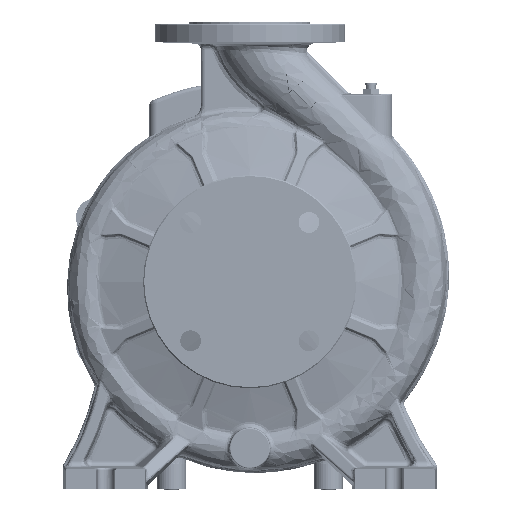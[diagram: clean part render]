
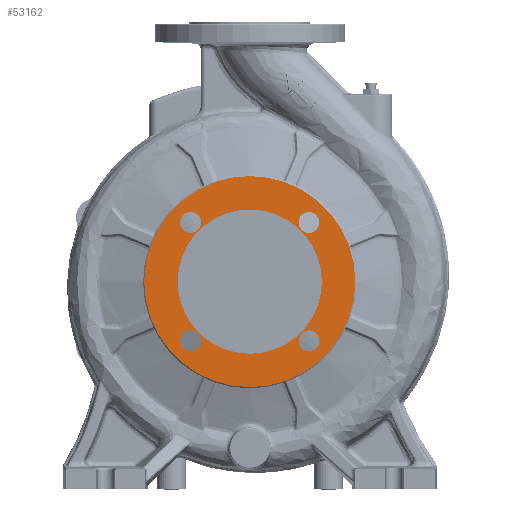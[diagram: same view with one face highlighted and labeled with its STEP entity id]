
A CAD part, left-side view. The second image highlights one B-rep face of the part: STEP entity #53162.
In plain terms, the highlighted planar face has unit normal (-1, 0, 0).
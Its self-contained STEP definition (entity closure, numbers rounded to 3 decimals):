
#1034 = CIRCLE ( 'NONE', #49460, 91.5 ) ;
#2790 = DIRECTION ( 'NONE',  ( 0., 1., 0. ) ) ;
#3164 = AXIS2_PLACEMENT_3D ( 'NONE', #77000, #22622, #75261 ) ;
#7348 = AXIS2_PLACEMENT_3D ( 'NONE', #144102, #24612, #79869 ) ;
#8888 = CARTESIAN_POINT ( 'NONE',  ( -229.5, 57.629, -57.629 ) ) ;
#9123 = FACE_BOUND ( 'NONE', #127424, .T. ) ;
#9457 = EDGE_CURVE ( 'NONE', #87311, #141584, #174611, .T. ) ;
#11344 = CARTESIAN_POINT ( 'NONE',  ( -229.5, -51.265, -51.265 ) ) ;
#13207 = ORIENTED_EDGE ( 'NONE', *, *, #113485, .T. ) ;
#13282 = CIRCLE ( 'NONE', #93066, 91.5 ) ;
#14411 = CIRCLE ( 'NONE', #42943, 9. ) ;
#20060 = EDGE_CURVE ( 'NONE', #94092, #72420, #80522, .T. ) ;
#22622 = DIRECTION ( 'NONE',  ( 1., 0., 0. ) ) ;
#23498 = CARTESIAN_POINT ( 'NONE',  ( -229.5, 51.265, -51.265 ) ) ;
#24612 = DIRECTION ( 'NONE',  ( 1., 0., 0. ) ) ;
#24714 = DIRECTION ( 'NONE',  ( -1., 0., 0. ) ) ;
#26055 = ORIENTED_EDGE ( 'NONE', *, *, #133220, .T. ) ;
#27043 = ORIENTED_EDGE ( 'NONE', *, *, #55331, .T. ) ;
#28665 = CARTESIAN_POINT ( 'NONE',  ( -229.5, -51.265, 51.265 ) ) ;
#31810 = CARTESIAN_POINT ( 'NONE',  ( -229.5, 62.5, 0. ) ) ;
#32246 = EDGE_LOOP ( 'NONE', ( #32317, #172771 ) ) ;
#32317 = ORIENTED_EDGE ( 'NONE', *, *, #41038, .T. ) ;
#32535 = CARTESIAN_POINT ( 'NONE',  ( -229.5, -57.629, -57.629 ) ) ;
#33638 = AXIS2_PLACEMENT_3D ( 'NONE', #66405, #105631, #149228 ) ;
#33712 = CIRCLE ( 'NONE', #144638, 9. ) ;
#34184 = VERTEX_POINT ( 'NONE', #136794 ) ;
#34701 = CIRCLE ( 'NONE', #134295, 62.5 ) ;
#37080 = EDGE_CURVE ( 'NONE', #127631, #109722, #14411, .T. ) ;
#37238 = CARTESIAN_POINT ( 'NONE',  ( -229.5, 57.629, 57.629 ) ) ;
#37442 = EDGE_CURVE ( 'NONE', #138045, #85432, #79952, .T. ) ;
#38120 = DIRECTION ( 'NONE',  ( -1., 0., 0. ) ) ;
#39187 = DIRECTION ( 'NONE',  ( 0., 1., 0. ) ) ;
#40177 = CARTESIAN_POINT ( 'NONE',  ( -229.5, -44.901, 44.901 ) ) ;
#40763 = DIRECTION ( 'NONE',  ( 0., 1., 0. ) ) ;
#40927 = AXIS2_PLACEMENT_3D ( 'NONE', #94066, #148418, #100223 ) ;
#41038 = EDGE_CURVE ( 'NONE', #172955, #143105, #13282, .T. ) ;
#42195 = CIRCLE ( 'NONE', #170302, 9. ) ;
#42943 = AXIS2_PLACEMENT_3D ( 'NONE', #81062, #65961, #39187 ) ;
#45769 = FACE_BOUND ( 'NONE', #48222, .T. ) ;
#48222 = EDGE_LOOP ( 'NONE', ( #26055, #103504 ) ) ;
#48906 = DIRECTION ( 'NONE',  ( 0., 1., 0. ) ) ;
#49460 = AXIS2_PLACEMENT_3D ( 'NONE', #69257, #38120, #40763 ) ;
#53162 = ADVANCED_FACE ( 'NONE', ( #156210, #86756, #45769, #170458, #9123, #73365 ), #157964, .T. ) ;
#54427 = ORIENTED_EDGE ( 'NONE', *, *, #83383, .F. ) ;
#55331 = EDGE_CURVE ( 'NONE', #141584, #87311, #42195, .T. ) ;
#56484 = EDGE_LOOP ( 'NONE', ( #130764, #13207 ) ) ;
#64982 = AXIS2_PLACEMENT_3D ( 'NONE', #169596, #88506, #102739 ) ;
#65749 = DIRECTION ( 'NONE',  ( 0., 1., 0. ) ) ;
#65961 = DIRECTION ( 'NONE',  ( 1., 0., 0. ) ) ;
#66405 = CARTESIAN_POINT ( 'NONE',  ( -229.5, 0., 0. ) ) ;
#69257 = CARTESIAN_POINT ( 'NONE',  ( -229.5, 0., 0. ) ) ;
#71430 = DIRECTION ( 'NONE',  ( 1., 0., 0. ) ) ;
#72420 = VERTEX_POINT ( 'NONE', #86220 ) ;
#73365 = FACE_BOUND ( 'NONE', #171937, .T. ) ;
#74896 = DIRECTION ( 'NONE',  ( -1., 0., 0. ) ) ;
#75261 = DIRECTION ( 'NONE',  ( 0., 1., 0. ) ) ;
#77000 = CARTESIAN_POINT ( 'NONE',  ( -229.5, 51.265, -51.265 ) ) ;
#79869 = DIRECTION ( 'NONE',  ( 0., 1., 0. ) ) ;
#79952 = CIRCLE ( 'NONE', #148122, 9. ) ;
#80009 = CIRCLE ( 'NONE', #3164, 9. ) ;
#80522 = CIRCLE ( 'NONE', #174388, 9. ) ;
#81062 = CARTESIAN_POINT ( 'NONE',  ( -229.5, 51.265, 51.265 ) ) ;
#83383 = EDGE_CURVE ( 'NONE', #34184, #93293, #99129, .T. ) ;
#85432 = VERTEX_POINT ( 'NONE', #164598 ) ;
#86220 = CARTESIAN_POINT ( 'NONE',  ( -229.5, 44.901, -44.901 ) ) ;
#86756 = FACE_BOUND ( 'NONE', #56484, .T. ) ;
#87311 = VERTEX_POINT ( 'NONE', #40177 ) ;
#88506 = DIRECTION ( 'NONE',  ( -1., 0., 0. ) ) ;
#93066 = AXIS2_PLACEMENT_3D ( 'NONE', #103395, #74896, #131905 ) ;
#93293 = VERTEX_POINT ( 'NONE', #31810 ) ;
#94066 = CARTESIAN_POINT ( 'NONE',  ( -229.5, -51.265, 51.265 ) ) ;
#94092 = VERTEX_POINT ( 'NONE', #8888 ) ;
#99129 = CIRCLE ( 'NONE', #33638, 62.5 ) ;
#100223 = DIRECTION ( 'NONE',  ( 0., 1., 0. ) ) ;
#102739 = DIRECTION ( 'NONE',  ( 0., 0., 1. ) ) ;
#103395 = CARTESIAN_POINT ( 'NONE',  ( -229.5, 0., 0. ) ) ;
#103504 = ORIENTED_EDGE ( 'NONE', *, *, #37442, .T. ) ;
#105631 = DIRECTION ( 'NONE',  ( -1., 0., 0. ) ) ;
#108475 = CARTESIAN_POINT ( 'NONE',  ( -229.5, -57.629, 57.629 ) ) ;
#108903 = ORIENTED_EDGE ( 'NONE', *, *, #9457, .T. ) ;
#109722 = VERTEX_POINT ( 'NONE', #37238 ) ;
#109751 = CIRCLE ( 'NONE', #7348, 9. ) ;
#113485 = EDGE_CURVE ( 'NONE', #109722, #127631, #33712, .T. ) ;
#114765 = DIRECTION ( 'NONE',  ( 1., 0., 0. ) ) ;
#119701 = CARTESIAN_POINT ( 'NONE',  ( -229.5, -91.5, 0. ) ) ;
#120759 = CARTESIAN_POINT ( 'NONE',  ( -229.5, 44.901, 44.901 ) ) ;
#122746 = ORIENTED_EDGE ( 'NONE', *, *, #156110, .F. ) ;
#127424 = EDGE_LOOP ( 'NONE', ( #108903, #27043 ) ) ;
#127631 = VERTEX_POINT ( 'NONE', #120759 ) ;
#127638 = ORIENTED_EDGE ( 'NONE', *, *, #175411, .T. ) ;
#129870 = DIRECTION ( 'NONE',  ( 0., 1., 0. ) ) ;
#130764 = ORIENTED_EDGE ( 'NONE', *, *, #37080, .T. ) ;
#131905 = DIRECTION ( 'NONE',  ( 0., 1., 0. ) ) ;
#133220 = EDGE_CURVE ( 'NONE', #85432, #138045, #109751, .T. ) ;
#133476 = DIRECTION ( 'NONE',  ( 1., 0., 0. ) ) ;
#134295 = AXIS2_PLACEMENT_3D ( 'NONE', #169210, #24714, #48906 ) ;
#136794 = CARTESIAN_POINT ( 'NONE',  ( -229.5, -62.5, 0. ) ) ;
#138045 = VERTEX_POINT ( 'NONE', #32535 ) ;
#141448 = CARTESIAN_POINT ( 'NONE',  ( -229.5, 51.265, 51.265 ) ) ;
#141584 = VERTEX_POINT ( 'NONE', #108475 ) ;
#143105 = VERTEX_POINT ( 'NONE', #119701 ) ;
#144102 = CARTESIAN_POINT ( 'NONE',  ( -229.5, -51.265, -51.265 ) ) ;
#144638 = AXIS2_PLACEMENT_3D ( 'NONE', #141448, #114765, #129870 ) ;
#148053 = ORIENTED_EDGE ( 'NONE', *, *, #20060, .T. ) ;
#148122 = AXIS2_PLACEMENT_3D ( 'NONE', #11344, #133476, #65749 ) ;
#148418 = DIRECTION ( 'NONE',  ( 1., 0., 0. ) ) ;
#149228 = DIRECTION ( 'NONE',  ( 0., 1., 0. ) ) ;
#153628 = CARTESIAN_POINT ( 'NONE',  ( -229.5, 91.5, 0. ) ) ;
#156110 = EDGE_CURVE ( 'NONE', #93293, #34184, #34701, .T. ) ;
#156210 = FACE_OUTER_BOUND ( 'NONE', #32246, .T. ) ;
#157964 = PLANE ( 'NONE',  #64982 ) ;
#158074 = DIRECTION ( 'NONE',  ( 0., 1., 0. ) ) ;
#164598 = CARTESIAN_POINT ( 'NONE',  ( -229.5, -44.901, -44.901 ) ) ;
#164619 = EDGE_LOOP ( 'NONE', ( #54427, #122746 ) ) ;
#167997 = EDGE_CURVE ( 'NONE', #143105, #172955, #1034, .T. ) ;
#169210 = CARTESIAN_POINT ( 'NONE',  ( -229.5, 0., 0. ) ) ;
#169596 = CARTESIAN_POINT ( 'NONE',  ( -229.5, 0., 0. ) ) ;
#170302 = AXIS2_PLACEMENT_3D ( 'NONE', #28665, #71430, #2790 ) ;
#170458 = FACE_BOUND ( 'NONE', #164619, .T. ) ;
#171937 = EDGE_LOOP ( 'NONE', ( #127638, #148053 ) ) ;
#172771 = ORIENTED_EDGE ( 'NONE', *, *, #167997, .T. ) ;
#172955 = VERTEX_POINT ( 'NONE', #153628 ) ;
#173182 = DIRECTION ( 'NONE',  ( 1., 0., 0. ) ) ;
#174388 = AXIS2_PLACEMENT_3D ( 'NONE', #23498, #173182, #158074 ) ;
#174611 = CIRCLE ( 'NONE', #40927, 9. ) ;
#175411 = EDGE_CURVE ( 'NONE', #72420, #94092, #80009, .T. ) ;
